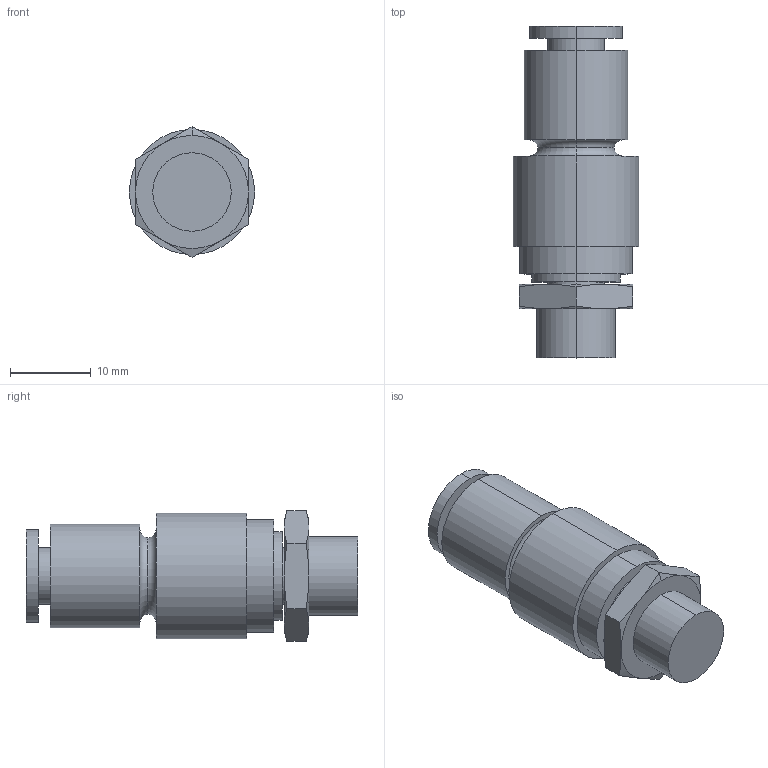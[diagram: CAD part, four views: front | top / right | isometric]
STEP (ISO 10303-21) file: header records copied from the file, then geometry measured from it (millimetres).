
FILE_DESCRIPTION (( 'STEP AP203' ), '1' );
FILE_NAME ('FKXH06-01.STEP', '2022-04-18T15:13:41', ( '' ), ( '' ), 'SwSTEP 2.0', 'SolidWorks 2019', '' );
FILE_SCHEMA (( 'CONFIG_CONTROL_DESIGN' ));
Length unit declared in the file: millimetre
Products named in the file (1): FKXH06-01
Bounding box: 15.5 x 41.1 x 16.17 mm (x, y, z)
Volume: 5019.6 mm3; surface area: 2834.7 mm2
Topology: 1 solids, 1 shells, 54 faces, 110 edges, 68 vertices
Faces by surface type: cylinder 18, plane 18, cone 14, torus 4
Entity records: 1755 total; most frequent: CARTESIAN_POINT 533, DIRECTION 256, ORIENTED_EDGE 220, AXIS2_PLACEMENT_3D 115, EDGE_CURVE 110, VERTEX_POINT 68, EDGE_LOOP 64, CIRCLE 60
